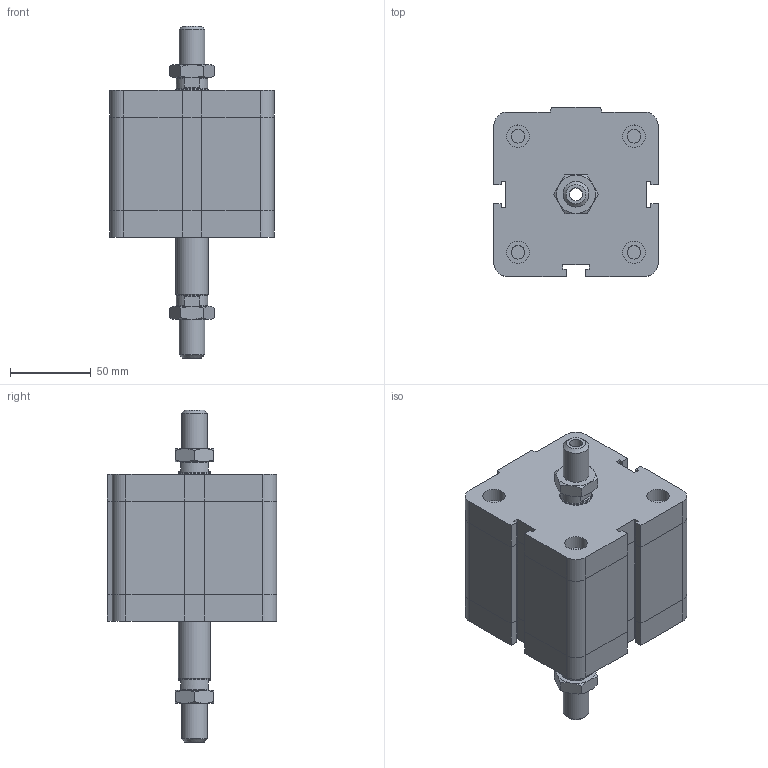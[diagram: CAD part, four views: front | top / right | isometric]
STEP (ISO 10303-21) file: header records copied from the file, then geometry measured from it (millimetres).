
FILE_DESCRIPTION((''),'2;1');
FILE_NAME('I:\Area Tecnica\Disegni\VARIE-3D\Componenti\EUROPE\15##_###_####_05_#\1561_80_0035_05_1.iam.stp','2009-04-20T14:57:36',(''),(''),'Autodesk Inventor 2009','Autodesk Inventor 2009','');
FILE_SCHEMA(('AUTOMOTIVE_DESIGN { 1 0 10303 214 1 1 1 1 }'));
Length unit declared in the file: millimetre
Products named in the file (4): 1561_80_0035_05_1; 1561_80_0035_03_1_C; 1561_80_0035_05_1_S; DBFM16
Assembly tree (4 placements, depth 2):
  1561_80_0035_05_1
    1561_80_0035_03_1_C
    1561_80_0035_05_1_S
    DBFM16  x2
Bounding box: 102 x 105 x 206 mm (x, y, z)
Volume: 926748.5 mm3; surface area: 95474.2 mm2
Topology: 4 solids, 4 shells, 223 faces, 486 edges, 291 vertices
Faces by surface type: plane 129, cone 37, bspline 32, cylinder 25
Full cylindrical faces by diameter (mm): 8.376 x4, 14 x4, 14.5 x1, 16 x1, 19.5 x2, 20 x1
Entity records: 5484 total; most frequent: CARTESIAN_POINT 1227, DIRECTION 808, ORIENTED_EDGE 776, EDGE_CURVE 388, AXIS2_PLACEMENT_3D 275, EDGE_LOOP 262, VECTOR 258, LINE 258
